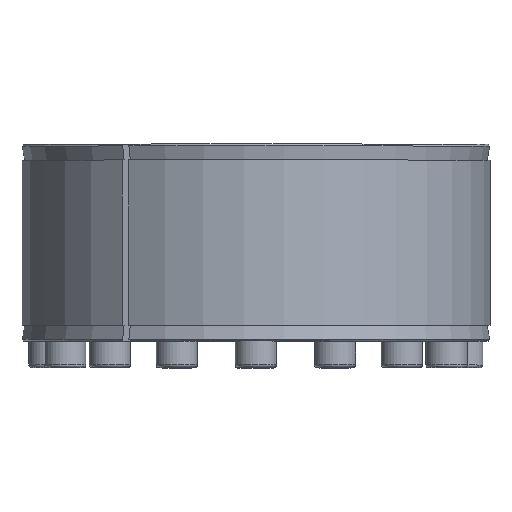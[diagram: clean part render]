
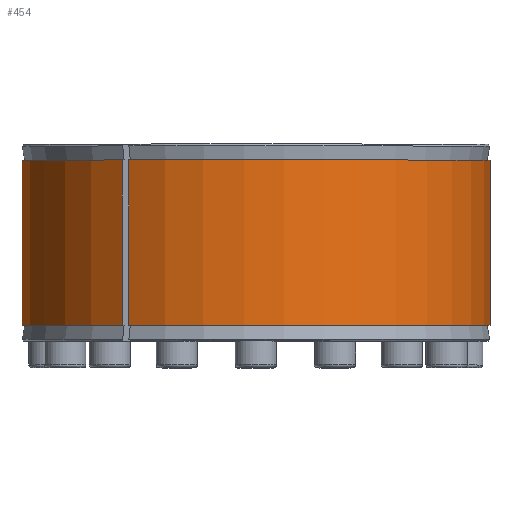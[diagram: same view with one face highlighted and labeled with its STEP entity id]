
A CAD part, top view. The second image highlights one B-rep face of the part: STEP entity #454.
In plain terms, the highlighted cylindrical face has radius 125 mm (diameter 250 mm), a partial arc.
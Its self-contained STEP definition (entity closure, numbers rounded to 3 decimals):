
#454 = ADVANCED_FACE( '', ( #800 ), #801, .T. );
#800 = FACE_OUTER_BOUND( '', #1152, .T. );
#801 = CYLINDRICAL_SURFACE( '', #1153, 125. );
#1152 = EDGE_LOOP( '', ( #1790, #1791, #1792, #1793 ) );
#1153 = AXIS2_PLACEMENT_3D( '', #1794, #1795, #1796 );
#1790 = ORIENTED_EDGE( '', *, *, #2388, .T. );
#1791 = ORIENTED_EDGE( '', *, *, #2351, .T. );
#1792 = ORIENTED_EDGE( '', *, *, #2412, .F. );
#1793 = ORIENTED_EDGE( '', *, *, #2500, .T. );
#1794 = CARTESIAN_POINT( '', ( 0., -60., 0. ) );
#1795 = DIRECTION( '', ( 0., 1., 0. ) );
#1796 = DIRECTION( '', ( 0., 0., -1. ) );
#2351 = EDGE_CURVE( '', #2682, #2680, #2683, .T. );
#2388 = EDGE_CURVE( '', #2750, #2682, #2751, .T. );
#2412 = EDGE_CURVE( '', #2794, #2680, #2795, .T. );
#2500 = EDGE_CURVE( '', #2794, #2750, #2944, .F. );
#2680 = VERTEX_POINT( '', #3141 );
#2682 = VERTEX_POINT( '', #3144 );
#2683 = LINE( '', #3145, #3146 );
#2750 = VERTEX_POINT( '', #3238 );
#2751 = CIRCLE( '', #3239, 125. );
#2794 = VERTEX_POINT( '', #3290 );
#2795 = CIRCLE( '', #3291, 125. );
#2944 = LINE( '', #3854, #3855 );
#3141 = CARTESIAN_POINT( '', ( -67.774, 8.5, 105.032 ) );
#3144 = CARTESIAN_POINT( '', ( -67.774, 96.5, 105.032 ) );
#3145 = CARTESIAN_POINT( '', ( -67.774, -60., 105.032 ) );
#3146 = VECTOR( '', #4000, 1000. );
#3238 = CARTESIAN_POINT( '', ( -71.1, 96.5, 102.809 ) );
#3239 = AXIS2_PLACEMENT_3D( '', #4080, #4081, #4082 );
#3290 = CARTESIAN_POINT( '', ( -71.1, 8.5, 102.809 ) );
#3291 = AXIS2_PLACEMENT_3D( '', #4142, #4143, #4144 );
#3854 = CARTESIAN_POINT( '', ( -71.1, -60., 102.809 ) );
#3855 = VECTOR( '', #4339, 1000. );
#4000 = DIRECTION( '', ( 0., -1., 0. ) );
#4080 = CARTESIAN_POINT( '', ( 0., 96.5, 0. ) );
#4081 = DIRECTION( '', ( 0., -1., 0. ) );
#4082 = DIRECTION( '', ( 0., 0., -1. ) );
#4142 = CARTESIAN_POINT( '', ( 0., 8.5, 0. ) );
#4143 = DIRECTION( '', ( 0., -1., 0. ) );
#4144 = DIRECTION( '', ( 0., 0., -1. ) );
#4339 = DIRECTION( '', ( 0., -1., 0. ) );
